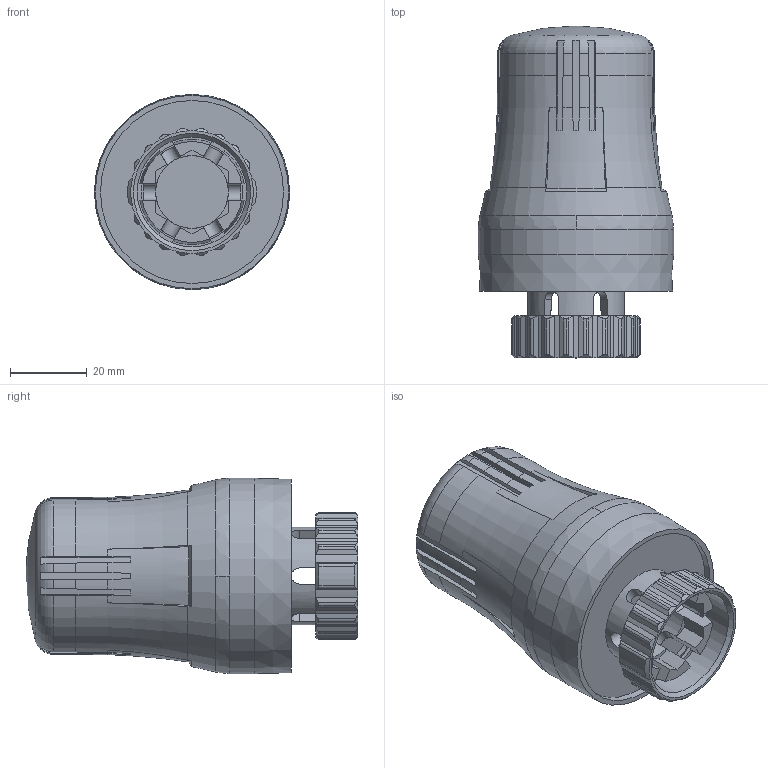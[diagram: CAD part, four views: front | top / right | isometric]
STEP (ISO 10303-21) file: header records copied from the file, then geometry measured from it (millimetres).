
FILE_DESCRIPTION(('STEP AP203'), '1');
FILE_NAME('VT.3500.0.0', '', ('UNSPECIFIED'), ('UNSPECIFIED'), 'C3D Converter', 'C3D Toolkit', '');
FILE_SCHEMA(('CONFIG_CONTROL_DESIGN'));
Length unit declared in the file: millimetre
Products named in the file (1): ВР.304555.012.000 СБ
Bounding box: 51 x 86.7 x 51 mm (x, y, z)
Volume: 110371 mm3; surface area: 18169.2 mm2
Topology: 1 solids, 1 shells, 296 faces, 808 edges, 507 vertices
Faces by surface type: plane 141, cylinder 85, cone 50, torus 19, sphere 1
Full cylindrical faces by diameter (mm): 25.5 x1, 26.5 x1, 28.6 x1, 47.8 x1, 51 x1
Entity records: 12313 total; most frequent: CARTESIAN_POINT 5254, ORIENTED_EDGE 1592, DIRECTION 1324, EDGE_CURVE 796, AXIS2_PLACEMENT_3D 515, VERTEX_POINT 506, EDGE_LOOP 312, FACE_BOUND 297
